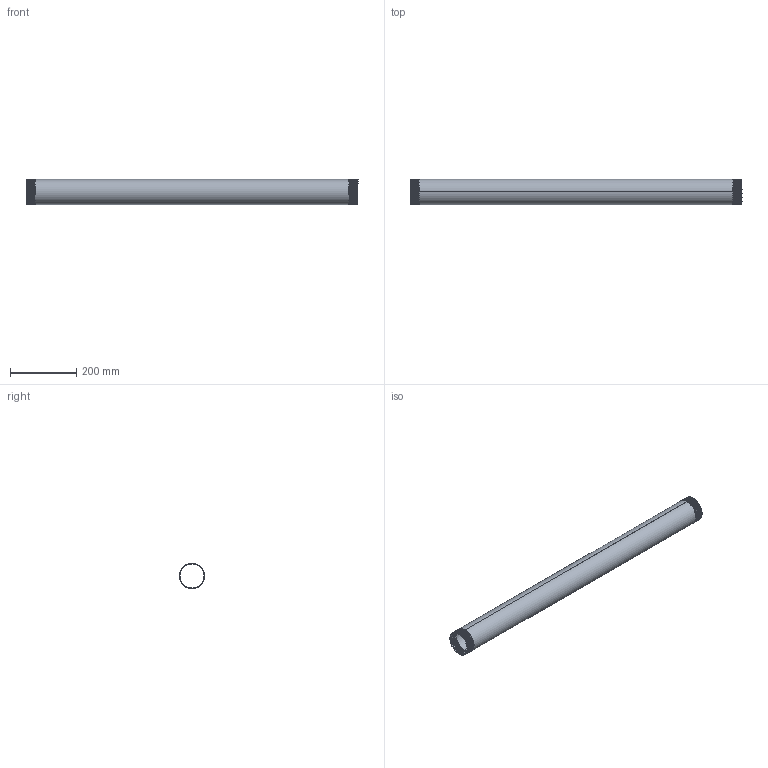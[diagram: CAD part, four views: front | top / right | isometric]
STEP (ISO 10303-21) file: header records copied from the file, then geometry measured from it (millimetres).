
FILE_DESCRIPTION (( 'STEP AP203' ), '1' );
FILE_NAME ('3D_R210_2 1-2x1000_17191645.STEP', '2024-08-16T14:56:39', ( '' ), ( '' ), 'SwSTEP 2.0', 'SolidWorks 2024', '' );
FILE_SCHEMA (( 'CONFIG_CONTROL_DESIGN' ));
Length unit declared in the file: millimetre
Products named in the file (1): 3D_R210_2 1-2x1000_17191645
Bounding box: 1000 x 75.99 x 76.1 mm (x, y, z)
Volume: 459353.6 mm3; surface area: 473312.9 mm2
Topology: 1 solids, 1 shells, 92 faces, 264 edges, 174 vertices
Faces by surface type: cone 78, bspline 6, cylinder 4, plane 4
Entity records: 17387 total; most frequent: CARTESIAN_POINT 15249, ORIENTED_EDGE 528, DIRECTION 284, EDGE_CURVE 264, VERTEX_POINT 174, B_SPLINE_CURVE_WITH_KNOTS 158, AXIS2_PLACEMENT_3D 99, EDGE_LOOP 94
